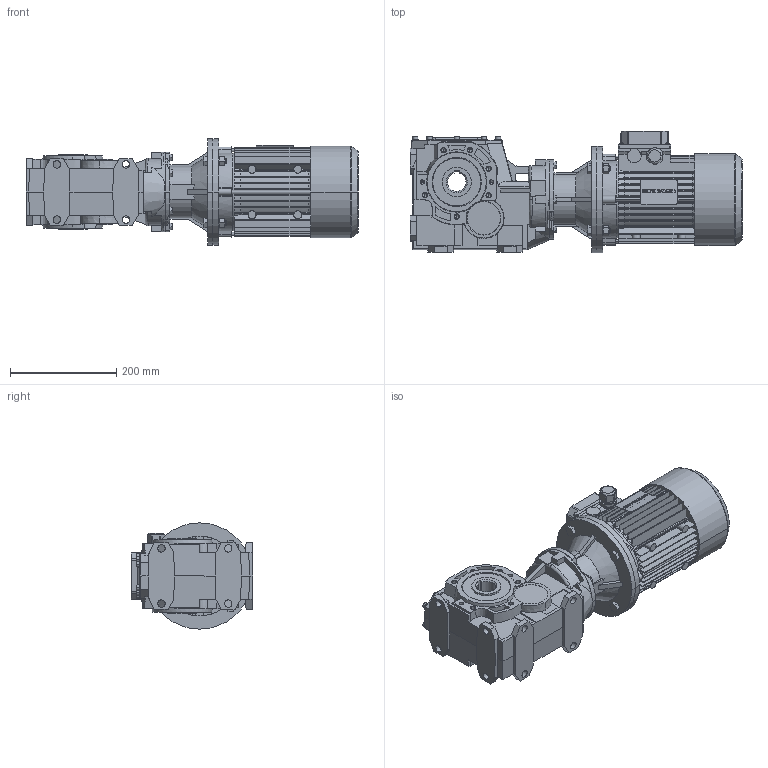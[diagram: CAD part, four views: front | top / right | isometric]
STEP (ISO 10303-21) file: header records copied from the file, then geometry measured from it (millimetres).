
FILE_DESCRIPTION( ( '' ), '1' );
FILE_NAME( '//expscmdclustefs.cadenas.external/client_exchange/iodir/jobs/output/wkb50611416_no0/STEP/B063UC5_7190_B535000000T090L1_2_03.stp', '2012-10-31T00:27:21', ( '' ), ( '' ), ' ', ' ', ' ' );
FILE_SCHEMA( ( 'CONFIG_CONTROL_DESIGN' ) );
Length unit declared in the file: millimetre
Products named in the file (11): 1; 2; 3; 4; 5; 6; 7; 8; 9; 10; 11
Bounding box: 625 x 228.6 x 200 mm (x, y, z)
Volume: 12077293.4 mm3; surface area: 1001271.3 mm2
Topology: 11 solids, 11 shells, 2670 faces, 7259 edges, 4740 vertices
Faces by surface type: plane 1431, cylinder 971, cone 245, torus 17, sphere 6
Entity records: 85769 total; most frequent: CARTESIAN_POINT 16379, DIRECTION 14789, ORIENTED_EDGE 14450, EDGE_CURVE 7225, AXIS2_PLACEMENT_3D 5191, VERTEX_POINT 4740, LINE 4407, VECTOR 4407
